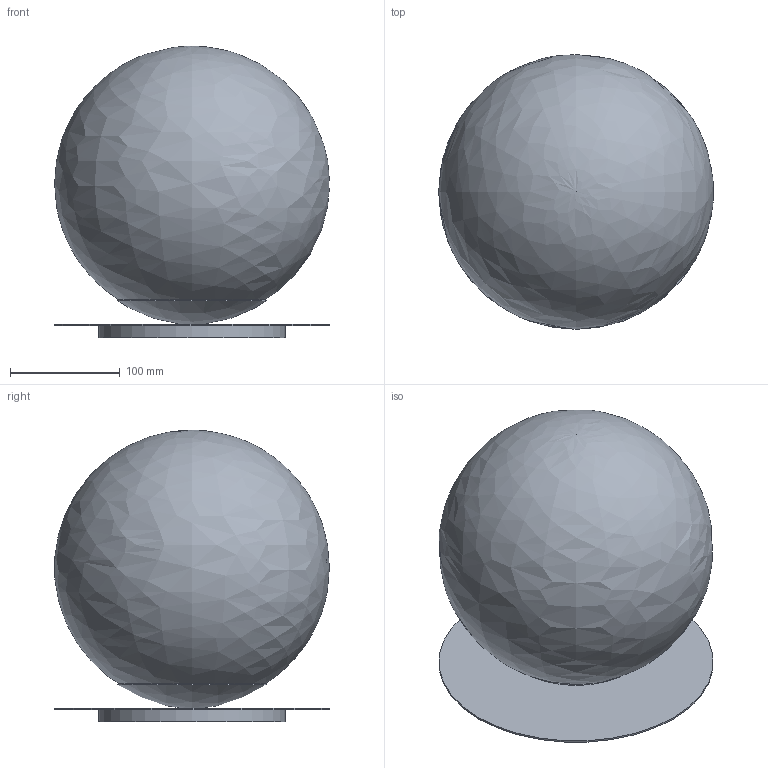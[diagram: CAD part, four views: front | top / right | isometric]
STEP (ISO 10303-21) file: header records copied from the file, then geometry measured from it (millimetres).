
FILE_DESCRIPTION(/* description */ (''),/* implementation_level */ '2;1');
FILE_NAME(/* name */ 'B650 Pulsar Wall Sconce 250.stp',/* time_stamp */ '2022-10-12T15:23:33+02:00',/* author */ ('Mariusz Awariusz'),/* organization */ (''),/* preprocessor_version */ 'ST-DEVELOPER v19.2',/* originating_system */ 'Autodesk Inventor 2023',/* authorisation */ '');
FILE_SCHEMA (('AUTOMOTIVE_DESIGN { 1 0 10303 214 3 1 1 }'));
Length unit declared in the file: millimetre
Products named in the file (1): B650 Pulsar Wall Sconce 250_jako część
Bounding box: 250.11 x 250.11 x 265.44 mm (x, y, z)
Volume: 716248.4 mm3; surface area: 559920.1 mm2
Topology: 4 solids, 4 shells, 15 faces, 25 edges, 16 vertices
Faces by surface type: plane 4, cylinder 4, sphere 2, torus 2, bspline 2, cone 1
Full cylindrical faces by diameter (mm): 16 x1, 80.221 x1, 170 x1, 250 x1
Entity records: 475 total; most frequent: CARTESIAN_POINT 143, DIRECTION 69, ORIENTED_EDGE 46, AXIS2_PLACEMENT_3D 32, EDGE_CURVE 23, CIRCLE 18, EDGE_LOOP 17, VERTEX_POINT 16
